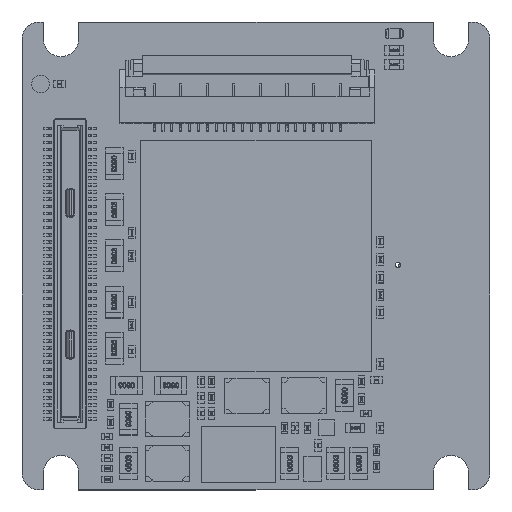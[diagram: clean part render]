
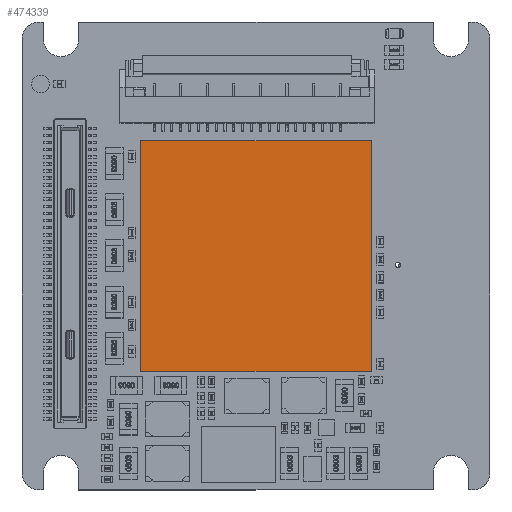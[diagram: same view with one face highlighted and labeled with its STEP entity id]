
A CAD part, top view. The second image highlights one B-rep face of the part: STEP entity #474339.
In plain terms, the highlighted planar face has unit normal (0, 0, 1).
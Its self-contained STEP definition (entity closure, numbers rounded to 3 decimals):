
#3420 = FACE_OUTER_BOUND ( 'NONE', #183378, .T. ) ;
#8501 = ORIENTED_EDGE ( 'NONE', *, *, #311223, .F. ) ;
#17378 = CARTESIAN_POINT ( 'NONE',  ( -6.5, -6.5, 6.162 ) ) ;
#61789 = CARTESIAN_POINT ( 'NONE',  ( -6.5, 6.5, 6.162 ) ) ;
#79461 = CARTESIAN_POINT ( 'NONE',  ( -6.5, 6.5, 6.162 ) ) ;
#138414 = ORIENTED_EDGE ( 'NONE', *, *, #467111, .F. ) ;
#151407 = LINE ( 'NONE', #535017, #284794 ) ;
#161715 = PLANE ( 'NONE',  #555939 ) ;
#174393 = DIRECTION ( 'NONE',  ( 0., 1., 0. ) ) ;
#177363 = CARTESIAN_POINT ( 'NONE',  ( 0., 0., 6.162 ) ) ;
#183378 = EDGE_LOOP ( 'NONE', ( #268836, #502534, #138414, #8501 ) ) ;
#183691 = EDGE_CURVE ( 'NONE', #543052, #235136, #151407, .T. ) ;
#195840 = DIRECTION ( 'NONE',  ( -1., 0., 0. ) ) ;
#201303 = LINE ( 'NONE', #61789, #283032 ) ;
#212959 = VERTEX_POINT ( 'NONE', #556923 ) ;
#235136 = VERTEX_POINT ( 'NONE', #17378 ) ;
#268836 = ORIENTED_EDGE ( 'NONE', *, *, #183691, .F. ) ;
#283032 = VECTOR ( 'NONE', #594272, 1000. ) ;
#284794 = VECTOR ( 'NONE', #195840, 1000. ) ;
#311223 = EDGE_CURVE ( 'NONE', #235136, #520077, #599328, .T. ) ;
#357055 = VECTOR ( 'NONE', #596514, 1000. ) ;
#364958 = LINE ( 'NONE', #558398, #357055 ) ;
#405759 = DIRECTION ( 'NONE',  ( 0., 0., -1. ) ) ;
#418323 = DIRECTION ( 'NONE',  ( 0., -1., 0. ) ) ;
#467111 = EDGE_CURVE ( 'NONE', #520077, #212959, #201303, .T. ) ;
#472723 = VECTOR ( 'NONE', #174393, 1000. ) ;
#474339 = ADVANCED_FACE ( 'NONE', ( #3420 ), #161715, .F. ) ;
#502534 = ORIENTED_EDGE ( 'NONE', *, *, #515701, .F. ) ;
#515701 = EDGE_CURVE ( 'NONE', #212959, #543052, #364958, .T. ) ;
#520077 = VERTEX_POINT ( 'NONE', #79461 ) ;
#535017 = CARTESIAN_POINT ( 'NONE',  ( 6.5, -6.5, 6.162 ) ) ;
#543052 = VERTEX_POINT ( 'NONE', #624205 ) ;
#555939 = AXIS2_PLACEMENT_3D ( 'NONE', #177363, #405759, #418323 ) ;
#556923 = CARTESIAN_POINT ( 'NONE',  ( 6.5, 6.5, 6.162 ) ) ;
#558398 = CARTESIAN_POINT ( 'NONE',  ( 6.5, 6.5, 6.162 ) ) ;
#594272 = DIRECTION ( 'NONE',  ( 1., 0., 0. ) ) ;
#596514 = DIRECTION ( 'NONE',  ( 0., -1., 0. ) ) ;
#599328 = LINE ( 'NONE', #608694, #472723 ) ;
#608694 = CARTESIAN_POINT ( 'NONE',  ( -6.5, -6.5, 6.162 ) ) ;
#624205 = CARTESIAN_POINT ( 'NONE',  ( 6.5, -6.5, 6.162 ) ) ;
